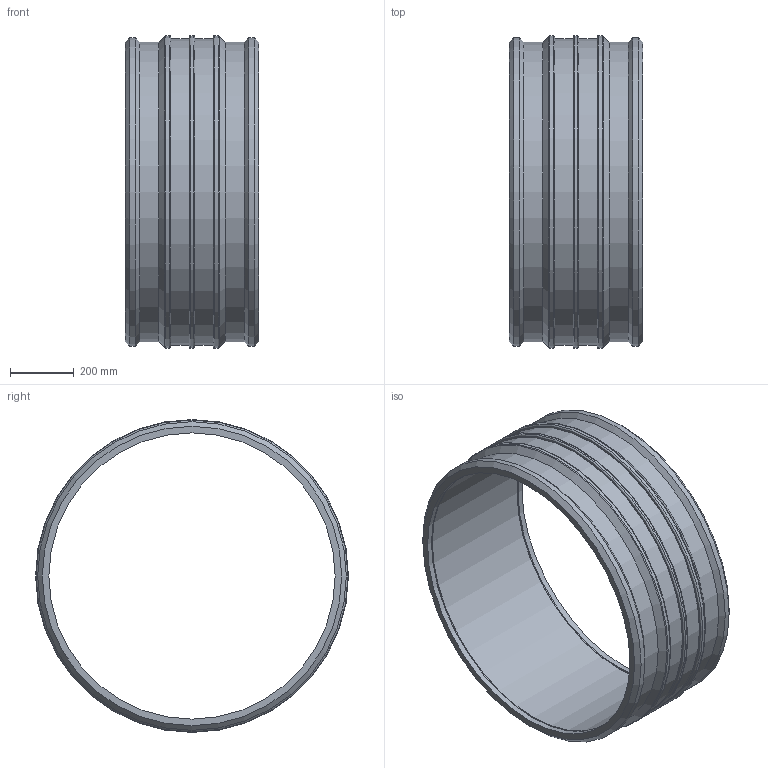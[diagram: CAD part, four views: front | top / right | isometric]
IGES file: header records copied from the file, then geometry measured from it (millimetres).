
Global section: file name: 4601S3900.ipt; native system: Autodesk Inventor 2015; preprocessor: unknown; author: KIM; date: 20190627.094251; units: millimetre
Bounding box: 420 x 983 x 983 mm (x, y, z)
Volume: 36000783.1 mm3; surface area: 2794533.2 mm2
Topology: 1 solids, 1 shells, 48 faces, 106 edges, 70 vertices
Faces by surface type: cylinder 15, plane 14, revolution 13, cone 6
Full cylindrical faces by diameter (mm): 4 x2, 940.9 x2, 963.34 x2, 970 x2, 983 x3
